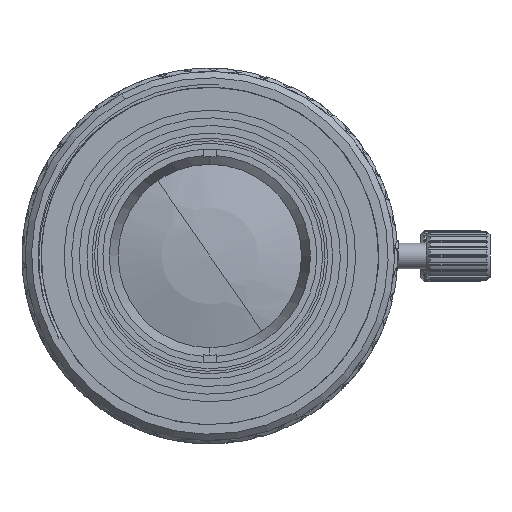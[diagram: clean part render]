
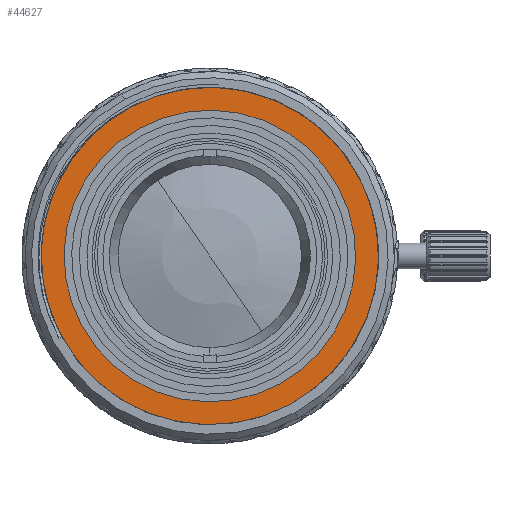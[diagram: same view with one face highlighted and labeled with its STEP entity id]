
A CAD part, left-side view. The second image highlights one B-rep face of the part: STEP entity #44627.
In plain terms, the highlighted planar face has unit normal (-1, 0, 0).
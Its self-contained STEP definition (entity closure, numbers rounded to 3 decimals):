
#1089 = CARTESIAN_POINT ( 'NONE',  ( 1677.339, -1064.477, 10.058 ) ) ;
#1750 = AXIS2_PLACEMENT_3D ( 'NONE', #17825, #33235, #41045 ) ;
#2546 = DIRECTION ( 'NONE',  ( 0., 0.478, 0.878 ) ) ;
#7559 = ORIENTED_EDGE ( 'NONE', *, *, #23782, .F. ) ;
#9948 = EDGE_CURVE ( 'NONE', #38780, #45700, #23846, .T. ) ;
#10370 = CARTESIAN_POINT ( 'NONE',  ( 1677.339, -1069.949, 0. ) ) ;
#10396 = CARTESIAN_POINT ( 'NONE',  ( 1677.339, -1069.949, 0. ) ) ;
#13715 = CARTESIAN_POINT ( 'NONE',  ( 1677.339, -1063.617, 11.639 ) ) ;
#14030 = FACE_BOUND ( 'NONE', #19862, .T. ) ;
#14737 = VERTEX_POINT ( 'NONE', #1089 ) ;
#15323 = ORIENTED_EDGE ( 'NONE', *, *, #9948, .T. ) ;
#15382 = EDGE_CURVE ( 'NONE', #24382, #14737, #23494, .T. ) ;
#16302 = CIRCLE ( 'NONE', #44515, 13.25 ) ;
#17825 = CARTESIAN_POINT ( 'NONE',  ( 1677.339, -1069.949, 0. ) ) ;
#18880 = EDGE_CURVE ( 'NONE', #45700, #38780, #16302, .T. ) ;
#19862 = EDGE_LOOP ( 'NONE', ( #7559, #26390 ) ) ;
#22197 = DIRECTION ( 'NONE',  ( -1., 0., 0. ) ) ;
#23494 = CIRCLE ( 'NONE', #1750, 11.45 ) ;
#23782 = EDGE_CURVE ( 'NONE', #14737, #24382, #29858, .T. ) ;
#23846 = CIRCLE ( 'NONE', #35948, 13.25 ) ;
#24382 = VERTEX_POINT ( 'NONE', #28210 ) ;
#25399 = ORIENTED_EDGE ( 'NONE', *, *, #18880, .T. ) ;
#26390 = ORIENTED_EDGE ( 'NONE', *, *, #15382, .F. ) ;
#27389 = AXIS2_PLACEMENT_3D ( 'NONE', #29420, #41248, #32935 ) ;
#28210 = CARTESIAN_POINT ( 'NONE',  ( 1677.339, -1075.422, -10.058 ) ) ;
#29420 = CARTESIAN_POINT ( 'NONE',  ( 1677.339, -1069.949, 0. ) ) ;
#29858 = CIRCLE ( 'NONE', #31463, 11.45 ) ;
#31463 = AXIS2_PLACEMENT_3D ( 'NONE', #41813, #33766, #33517 ) ;
#32935 = DIRECTION ( 'NONE',  ( 0., 0.878, -0.478 ) ) ;
#33235 = DIRECTION ( 'NONE',  ( -1., 0., 0. ) ) ;
#33517 = DIRECTION ( 'NONE',  ( 0., 0.478, 0.878 ) ) ;
#33766 = DIRECTION ( 'NONE',  ( -1., 0., 0. ) ) ;
#34094 = DIRECTION ( 'NONE',  ( -1., 0., 0. ) ) ;
#35948 = AXIS2_PLACEMENT_3D ( 'NONE', #10396, #34094, #49470 ) ;
#38780 = VERTEX_POINT ( 'NONE', #47504 ) ;
#40778 = EDGE_LOOP ( 'NONE', ( #25399, #15323 ) ) ;
#41045 = DIRECTION ( 'NONE',  ( 0., 0.478, 0.878 ) ) ;
#41248 = DIRECTION ( 'NONE',  ( 1., 0., 0. ) ) ;
#41813 = CARTESIAN_POINT ( 'NONE',  ( 1677.339, -1069.949, 0. ) ) ;
#44515 = AXIS2_PLACEMENT_3D ( 'NONE', #10370, #22197, #2546 ) ;
#44627 = ADVANCED_FACE ( 'NONE', ( #48583, #14030 ), #48838, .F. ) ;
#45700 = VERTEX_POINT ( 'NONE', #13715 ) ;
#47504 = CARTESIAN_POINT ( 'NONE',  ( 1677.339, -1076.282, -11.639 ) ) ;
#48583 = FACE_OUTER_BOUND ( 'NONE', #40778, .T. ) ;
#48838 = PLANE ( 'NONE',  #27389 ) ;
#49470 = DIRECTION ( 'NONE',  ( 0., 0.478, 0.878 ) ) ;
